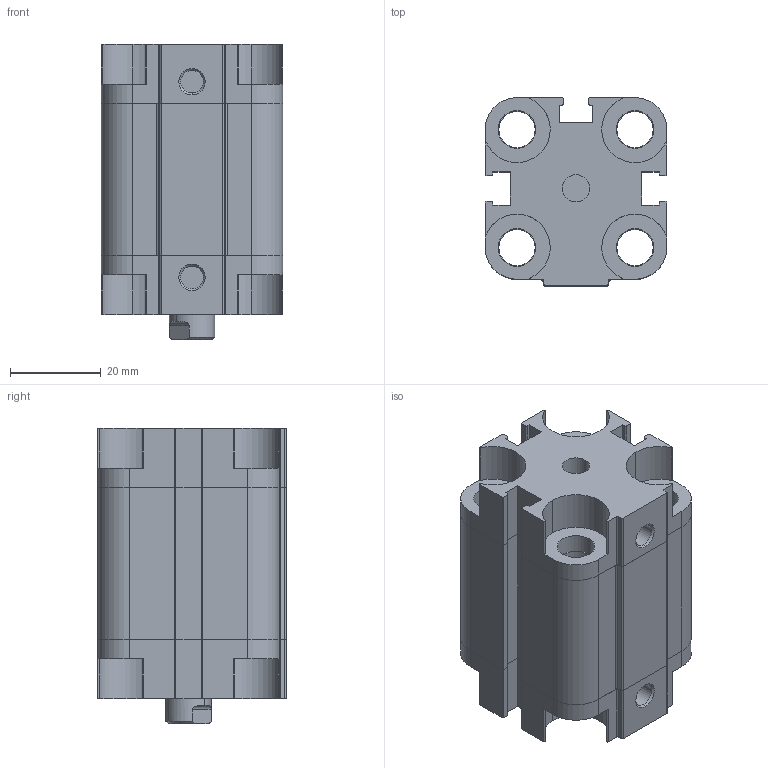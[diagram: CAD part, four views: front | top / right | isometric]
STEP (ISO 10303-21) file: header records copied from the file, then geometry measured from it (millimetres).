
FILE_DESCRIPTION (( 'STEP AP203' ), '1' );
FILE_NAME ('ADVU25X20-CYLINDER.STEP', '2015-05-20T11:09:45', ( 'user' ), ( '' ), 'SwSTEP 2.0', 'SolidWorks 2013', '' );
FILE_SCHEMA (( 'CONFIG_CONTROL_DESIGN' ));
Length unit declared in the file: millimetre
Products named in the file (6): ADVU 25 烰 KAPAK; ADVU 25X20 M尳; ADVU25X20-CYLINDER; ADVU 25 ARKA KAPAK; ADVU 25 ORTA PÝSTON; ADVU 25X20 BORU
Assembly tree (5 placements, depth 2):
  ADVU25X20-CYLINDER
    ADVU 25 ARKA KAPAK
    ADVU 25 ORTA PÝSTON
    ADVU 25X20 BORU
    ADVU 25 烰 KAPAK
    ADVU 25X20 M尳
Bounding box: 40 x 41.5 x 65 mm (x, y, z)
Volume: 56066.3 mm3; surface area: 32046.7 mm2
Topology: 6 solids, 6 shells, 338 faces, 908 edges, 603 vertices
Faces by surface type: cylinder 178, plane 146, cone 14
Entity records: 11496 total; most frequent: CARTESIAN_POINT 1972, DIRECTION 1960, ORIENTED_EDGE 1816, EDGE_CURVE 908, AXIS2_PLACEMENT_3D 719, VERTEX_POINT 603, LINE 522, VECTOR 522
